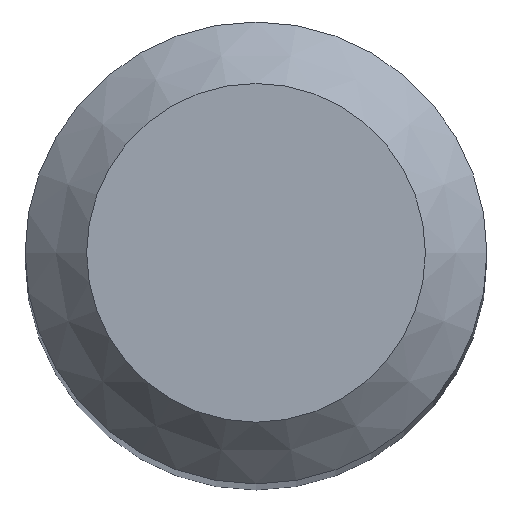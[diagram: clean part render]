
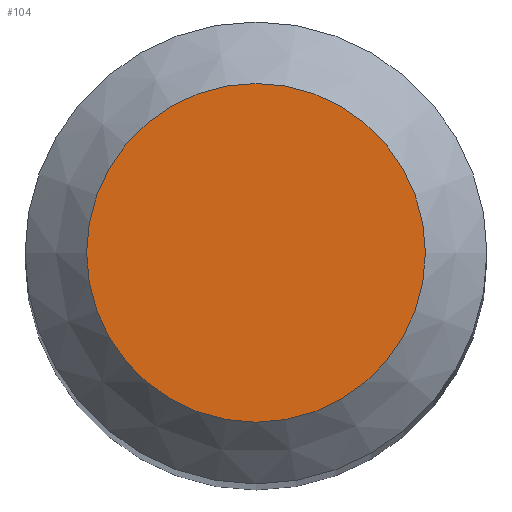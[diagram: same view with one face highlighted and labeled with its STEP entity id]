
A CAD part, top view. The second image highlights one B-rep face of the part: STEP entity #104.
In plain terms, the highlighted planar face has unit normal (0, 0, 1).
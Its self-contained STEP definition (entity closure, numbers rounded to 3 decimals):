
#88=CARTESIAN_POINT('',(2.2,0.0,75.0));
#89=DIRECTION('',(0.0,0.0,1.0));
#90=DIRECTION('',(1.0,0.0,0.0));
#91=AXIS2_PLACEMENT_3D('',#88,#89,#90);
#92=PLANE('',#91);
#93=CARTESIAN_POINT('',(-2.2,0.0,75.0));
#94=VERTEX_POINT('',#93);
#95=CARTESIAN_POINT('',(0.0,0.0,75.0));
#96=DIRECTION('',(0.0,0.0,-1.0));
#97=DIRECTION('',(-1.0,0.0,0.0));
#98=AXIS2_PLACEMENT_3D('',#95,#96,#97);
#99=CIRCLE('',#98,2.2);
#100=EDGE_CURVE('',#94,#94,#99,.T.);
#101=ORIENTED_EDGE('',*,*,#100,.F.);
#102=EDGE_LOOP('',(#101));
#103=FACE_OUTER_BOUND('',#102,.T.);
#104=ADVANCED_FACE('',(#103),#92,.T.);
